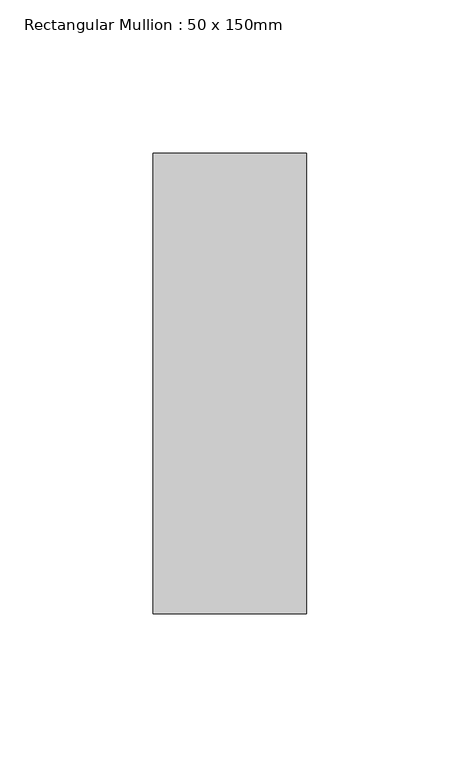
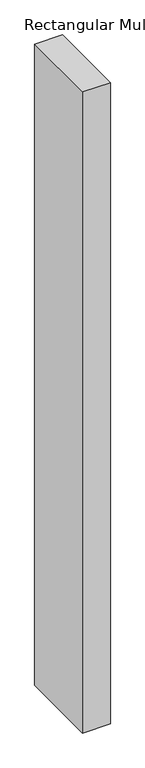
"""IFC4 building model written with IfcOpenShell, lengths in millimetres: member geometry, Rectangular Mullion : 50 x 150mm."""

from ifc_helpers import new_model, si_unit, frame, origin, place, context, project, spatial, polyline, outline, extrude, source, transform, mapped, element, save


def rectangular_mullion_50_x_150mm_ab14a89a(model_context):
    return source(origin(), model_context, "Body", "SweptSolid", [
        extrude(outline(polyline([(25.0, 75.0), (25.0, -75.0), (-25.0, -75.0), (-25.0, 75.0), (25.0, 75.0)])), frame((0.0, 0.0, -1225.0), z_axis=(0.0, 0.0, 1.0), x_axis=(1.0, 0.0, 0.0)), (0.0, 0.0, 1.0), 1225.0),
    ])


if __name__ == "__main__":
    model = new_model("IFC4")
    model_context = context("Model", 3, world=origin())
    ifc_project = project(units=[si_unit("LENGTHUNIT", "METRE", prefix="MILLI")], contexts=[model_context])
    site = spatial("IfcSite", under=ifc_project)
    building = spatial("IfcBuilding", under=site)
    placement = place(None, origin())
    rectangular_mullion_50_x_150mm_shape = rectangular_mullion_50_x_150mm_ab14a89a(model_context)
    element("IfcMember", 1, ObjectType="Rectangular Mullion : 50 x 150mm", at=placement, inside=building, context=model_context, shape_type="MappedRepresentation", body=[
        mapped(rectangular_mullion_50_x_150mm_shape, transform((0.0, 0.0, 0.0), x_axis=(1.0, 0.0, 0.0), y_axis=(0.0, 1.0, 0.0), z_axis=(0.0, 0.0, 1.0))),
    ])
    save(model, "model.ifc")
